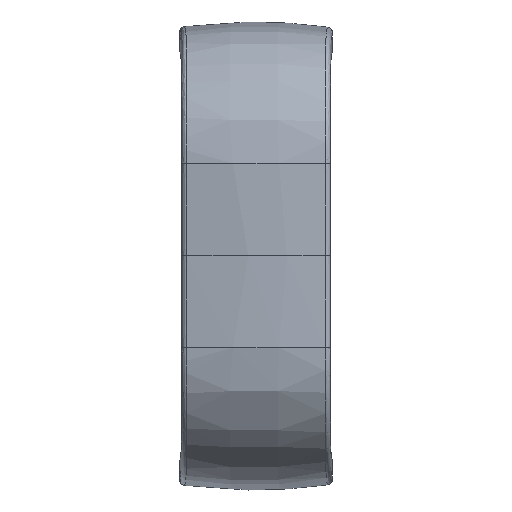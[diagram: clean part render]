
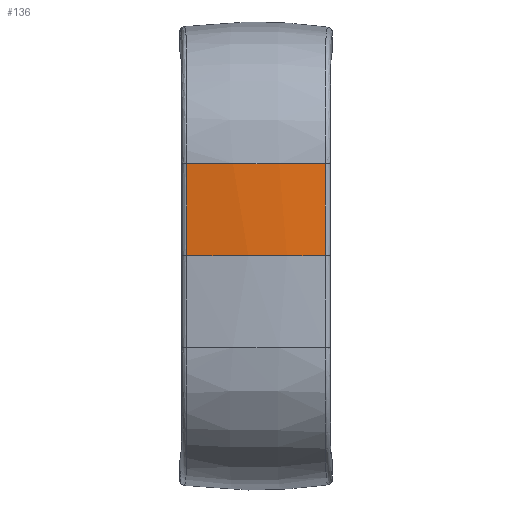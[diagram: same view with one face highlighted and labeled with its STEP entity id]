
A CAD part, top view. The second image highlights one B-rep face of the part: STEP entity #136.
In plain terms, the highlighted free-form (B-spline) face has degree [3, 3] with [4, 6] control points.
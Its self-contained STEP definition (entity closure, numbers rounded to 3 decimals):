
#136 = ADVANCED_FACE( '', ( #287 ), #288, .T. );
#287 = FACE_OUTER_BOUND( '', #4273, .T. );
#288 = ( BOUNDED_SURFACE(  )B_SPLINE_SURFACE( 3, 3, ( ( #4276, #4277, #4278, #4279, #4280, #4281 ), ( #4282, #4283, #4284, #4285, #4286, #4287 ), ( #4288, #4289, #4290, #4291, #4292, #4293 ), ( #4294, #4295, #4296, #4297, #4298, #4299 ) ), .UNSPECIFIED., .F., .F., .F. )B_SPLINE_SURFACE_WITH_KNOTS( ( 4, 4 ), ( 4, 2, 4 ), ( 0., 1. ), ( 0.175, 0.5, 0.825 ), .UNSPECIFIED. )GEOMETRIC_REPRESENTATION_ITEM(  )RATIONAL_B_SPLINE_SURFACE( ( ( 1., 1., 1., 1., 1., 1. ), ( 0.991, 0.991, 0.991, 0.991, 0.991, 0.991 ), ( 0.991, 0.991, 0.991, 0.991, 0.991, 0.991 ), ( 1., 1., 1., 1., 1., 1. ) ) )REPRESENTATION_ITEM( '' )SURFACE(  ) );
#4273 = EDGE_LOOP( '', ( #6677, #6678, #6679, #6680 ) );
#4276 = CARTESIAN_POINT( '', ( -7.329, -56.068, 23.412 ) );
#4277 = CARTESIAN_POINT( '', ( -7.329, -37.271, 23.412 ) );
#4278 = CARTESIAN_POINT( '', ( -7.329, -18.689, 23.412 ) );
#4279 = CARTESIAN_POINT( '', ( -7.329, 18.689, 23.412 ) );
#4280 = CARTESIAN_POINT( '', ( -7.329, 37.267, 23.412 ) );
#4281 = CARTESIAN_POINT( '', ( -7.329, 56.068, 23.412 ) );
#4282 = CARTESIAN_POINT( '', ( -2.464, -56.068, 24.198 ) );
#4283 = CARTESIAN_POINT( '', ( -2.464, -37.271, 24.198 ) );
#4284 = CARTESIAN_POINT( '', ( -2.464, -18.689, 24.198 ) );
#4285 = CARTESIAN_POINT( '', ( -2.464, 18.689, 24.198 ) );
#4286 = CARTESIAN_POINT( '', ( -2.464, 37.267, 24.198 ) );
#4287 = CARTESIAN_POINT( '', ( -2.464, 56.068, 24.198 ) );
#4288 = CARTESIAN_POINT( '', ( 2.464, -56.068, 24.198 ) );
#4289 = CARTESIAN_POINT( '', ( 2.464, -37.271, 24.198 ) );
#4290 = CARTESIAN_POINT( '', ( 2.464, -18.689, 24.198 ) );
#4291 = CARTESIAN_POINT( '', ( 2.464, 18.689, 24.198 ) );
#4292 = CARTESIAN_POINT( '', ( 2.464, 37.267, 24.198 ) );
#4293 = CARTESIAN_POINT( '', ( 2.464, 56.068, 24.198 ) );
#4294 = CARTESIAN_POINT( '', ( 7.329, -56.068, 23.412 ) );
#4295 = CARTESIAN_POINT( '', ( 7.329, -37.271, 23.412 ) );
#4296 = CARTESIAN_POINT( '', ( 7.329, -18.689, 23.412 ) );
#4297 = CARTESIAN_POINT( '', ( 7.329, 18.689, 23.412 ) );
#4298 = CARTESIAN_POINT( '', ( 7.329, 37.267, 23.412 ) );
#4299 = CARTESIAN_POINT( '', ( 7.329, 56.068, 23.412 ) );
#6677 = ORIENTED_EDGE( '', *, *, #6942, .T. );
#6678 = ORIENTED_EDGE( '', *, *, #6943, .T. );
#6679 = ORIENTED_EDGE( '', *, *, #6841, .F. );
#6680 = ORIENTED_EDGE( '', *, *, #6944, .T. );
#6841 = EDGE_CURVE( '', #7033, #7022, #7035, .F. );
#6942 = EDGE_CURVE( '', #7187, #7103, #7188, .T. );
#6943 = EDGE_CURVE( '', #7103, #7022, #7189, .T. );
#6944 = EDGE_CURVE( '', #7033, #7187, #7190, .T. );
#7022 = VERTEX_POINT( '', #7524 );
#7033 = VERTEX_POINT( '', #7730 );
#7035 = CIRCLE( '', #7808, 46. );
#7103 = VERTEX_POINT( '', #8299 );
#7187 = VERTEX_POINT( '', #9241 );
#7188 = ( BOUNDED_CURVE(  )B_SPLINE_CURVE( 3, ( #9244, #9245, #9246, #9247 ), .UNSPECIFIED., .F., .F. )B_SPLINE_CURVE_WITH_KNOTS( ( 4, 4 ), ( 0., 0.012 ), .UNSPECIFIED. )CURVE(  )GEOMETRIC_REPRESENTATION_ITEM(  )RATIONAL_B_SPLINE_CURVE( ( 0.998, 0.992, 0.992, 0.998 ) )REPRESENTATION_ITEM( '' ) );
#7189 = ( BOUNDED_CURVE(  )B_SPLINE_CURVE( 3, ( #9255, #9256, #9257, #9258 ), .UNSPECIFIED., .F., .F. )B_SPLINE_CURVE_WITH_KNOTS( ( 4, 4 ), ( 0.104, 0.112 ), .UNSPECIFIED. )CURVE(  )GEOMETRIC_REPRESENTATION_ITEM(  )RATIONAL_B_SPLINE_CURVE( ( 0.998, 0.998, 0.998, 0.998 ) )REPRESENTATION_ITEM( '' ) );
#7190 = ( BOUNDED_CURVE(  )B_SPLINE_CURVE( 3, ( #9266, #9267, #9268, #9269 ), .UNSPECIFIED., .F., .F. )B_SPLINE_CURVE_WITH_KNOTS( ( 4, 4 ), ( 0., 0.008 ), .UNSPECIFIED. )CURVE(  )GEOMETRIC_REPRESENTATION_ITEM(  )RATIONAL_B_SPLINE_CURVE( ( 0.998, 0.998, 0.998, 0.998 ) )REPRESENTATION_ITEM( '' ) );
#7524 = CARTESIAN_POINT( '', ( 6.07, 56.068, 23.598 ) );
#7730 = CARTESIAN_POINT( '', ( -6.07, 56.068, 23.598 ) );
#7808 = AXIS2_PLACEMENT_3D( '', #9735, #9736, #9737 );
#8299 = CARTESIAN_POINT( '', ( 6.07, 48., 23.598 ) );
#9241 = CARTESIAN_POINT( '', ( -6.07, 48., 23.598 ) );
#9244 = CARTESIAN_POINT( '', ( -6.07, 48., 23.598 ) );
#9245 = CARTESIAN_POINT( '', ( -2.035, 48., 24.135 ) );
#9246 = CARTESIAN_POINT( '', ( 2.035, 48., 24.135 ) );
#9247 = CARTESIAN_POINT( '', ( 6.07, 48., 23.598 ) );
#9255 = CARTESIAN_POINT( '', ( 6.07, 48., 23.598 ) );
#9256 = CARTESIAN_POINT( '', ( 6.07, 50.686, 23.598 ) );
#9257 = CARTESIAN_POINT( '', ( 6.07, 53.375, 23.598 ) );
#9258 = CARTESIAN_POINT( '', ( 6.07, 56.068, 23.598 ) );
#9266 = CARTESIAN_POINT( '', ( -6.07, 56.068, 23.598 ) );
#9267 = CARTESIAN_POINT( '', ( -6.07, 53.375, 23.598 ) );
#9268 = CARTESIAN_POINT( '', ( -6.07, 50.686, 23.598 ) );
#9269 = CARTESIAN_POINT( '', ( -6.07, 48., 23.598 ) );
#9735 = CARTESIAN_POINT( '', ( 0., 56.068, -22. ) );
#9736 = DIRECTION( '', ( 0., -1., 0. ) );
#9737 = DIRECTION( '', ( 1., 0., 0. ) );
